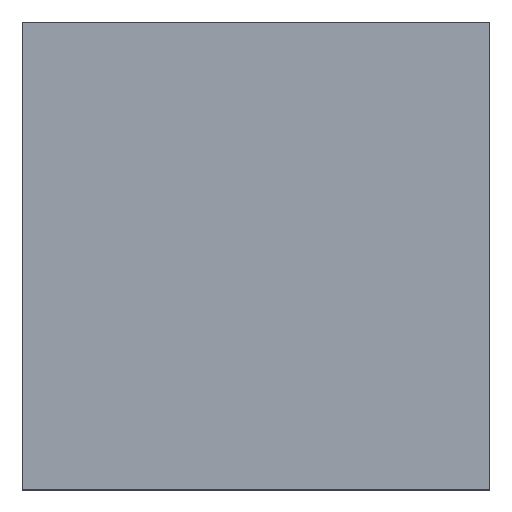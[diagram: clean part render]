
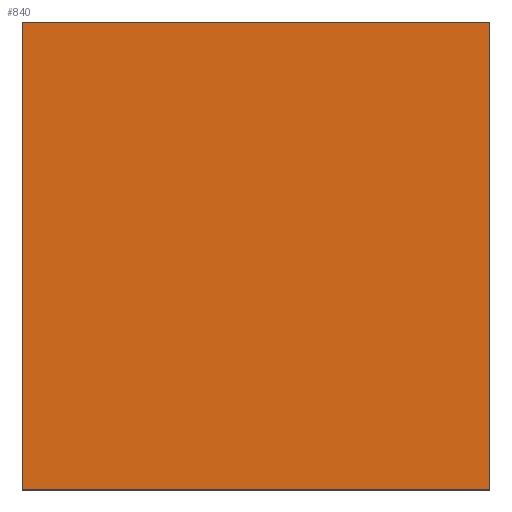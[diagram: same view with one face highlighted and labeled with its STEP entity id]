
A CAD part, top view. The second image highlights one B-rep face of the part: STEP entity #840.
In plain terms, the highlighted planar face has unit normal (0, 0, 1).
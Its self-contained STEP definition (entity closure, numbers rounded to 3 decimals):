
#3 = ORIENTED_EDGE ( 'NONE', *, *, #993, .T. ) ;
#21 = LINE ( 'NONE', #271, #244 ) ;
#38 = VERTEX_POINT ( 'NONE', #761 ) ;
#46 = ORIENTED_EDGE ( 'NONE', *, *, #472, .T. ) ;
#47 = ORIENTED_EDGE ( 'NONE', *, *, #542, .T. ) ;
#70 = LINE ( 'NONE', #908, #753 ) ;
#75 = DIRECTION ( 'NONE',  ( 0., 0., -1. ) ) ;
#105 = DIRECTION ( 'NONE',  ( -1., 0., 0. ) ) ;
#208 = AXIS2_PLACEMENT_3D ( 'NONE', #224, #75, #529 ) ;
#224 = CARTESIAN_POINT ( 'NONE',  ( 0., 0., 22.5 ) ) ;
#244 = VECTOR ( 'NONE', #105, 1000. ) ;
#251 = VECTOR ( 'NONE', #700, 1000. ) ;
#269 = EDGE_LOOP ( 'NONE', ( #46, #3, #47, #413 ) ) ;
#271 = CARTESIAN_POINT ( 'NONE',  ( 0., 76., 22.5 ) ) ;
#349 = VERTEX_POINT ( 'NONE', #414 ) ;
#354 = VERTEX_POINT ( 'NONE', #562 ) ;
#387 = LINE ( 'NONE', #461, #251 ) ;
#413 = ORIENTED_EDGE ( 'NONE', *, *, #914, .T. ) ;
#414 = CARTESIAN_POINT ( 'NONE',  ( 76., 76., 22.5 ) ) ;
#461 = CARTESIAN_POINT ( 'NONE',  ( 76., 0., 22.5 ) ) ;
#472 = EDGE_CURVE ( 'NONE', #882, #354, #70, .T. ) ;
#480 = LINE ( 'NONE', #656, #936 ) ;
#504 = DIRECTION ( 'NONE',  ( 0., -1., 0. ) ) ;
#529 = DIRECTION ( 'NONE',  ( -1., 0., 0. ) ) ;
#542 = EDGE_CURVE ( 'NONE', #38, #349, #387, .T. ) ;
#562 = CARTESIAN_POINT ( 'NONE',  ( 0., 0., 22.5 ) ) ;
#640 = DIRECTION ( 'NONE',  ( 1., 0., 0. ) ) ;
#656 = CARTESIAN_POINT ( 'NONE',  ( 0., 0., 22.5 ) ) ;
#700 = DIRECTION ( 'NONE',  ( 0., 1., 0. ) ) ;
#753 = VECTOR ( 'NONE', #504, 1000. ) ;
#761 = CARTESIAN_POINT ( 'NONE',  ( 76., 0., 22.5 ) ) ;
#762 = FACE_OUTER_BOUND ( 'NONE', #269, .T. ) ;
#797 = CARTESIAN_POINT ( 'NONE',  ( 0., 76., 22.5 ) ) ;
#840 = ADVANCED_FACE ( 'NONE', ( #762 ), #905, .F. ) ;
#882 = VERTEX_POINT ( 'NONE', #797 ) ;
#905 = PLANE ( 'NONE',  #208 ) ;
#908 = CARTESIAN_POINT ( 'NONE',  ( 0., 0., 22.5 ) ) ;
#914 = EDGE_CURVE ( 'NONE', #349, #882, #21, .T. ) ;
#936 = VECTOR ( 'NONE', #640, 1000. ) ;
#993 = EDGE_CURVE ( 'NONE', #354, #38, #480, .T. ) ;
